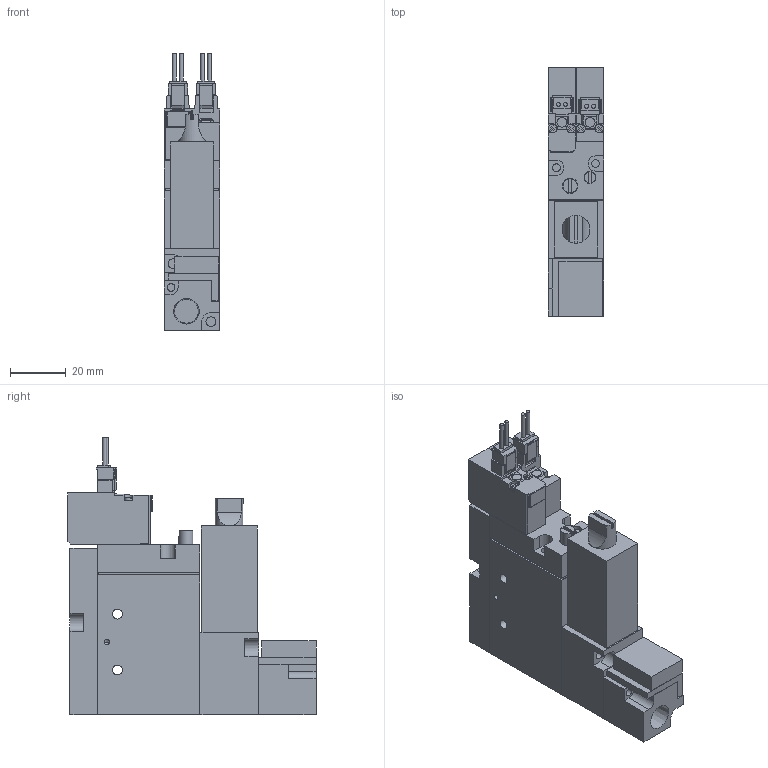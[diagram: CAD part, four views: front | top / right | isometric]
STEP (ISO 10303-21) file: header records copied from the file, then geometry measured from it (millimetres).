
FILE_DESCRIPTION(('STEP AP203'),'1');
FILE_NAME('BMPV32S2NZ25AL.stp','2025-06-17T01:57:33',(' '),(' '),'Spatial InterOp 3D',' ',' ');
FILE_SCHEMA(('CONFIG_CONTROL_DESIGN'));
Length unit declared in the file: millimetre
Products named in the file (14): BMPV32S2NZ25AL; S____; ___ ___2; ___-2(Rc); __ ___ (Rc); Filter Assy; __; _____; ___; upper plate-A; ______; ____; VACUUM VALVE FUNCTION MPV42-A; UV280-4E
Assembly tree (13 placements, depth 2):
  BMPV32S2NZ25AL
    S____
    ___ ___2
    ___-2(Rc)
    __ ___ (Rc)
    Filter Assy
    __
    _____
    ___
    upper plate-A
    ______
    ____
    VACUUM VALVE FUNCTION MPV42-A
    UV280-4E
Bounding box: 20 x 88.7 x 99.25 mm (x, y, z)
Volume: 96845.5 mm3; surface area: 34257.2 mm2
Topology: 13 solids, 13 shells, 368 faces, 966 edges, 640 vertices
Faces by surface type: plane 301, cylinder 59, cone 8
Full cylindrical faces by diameter (mm): 1.4 x4, 1.8 x2, 2 x2, 2.5 x2, 2.8 x4, 3 x4, 3.5 x10, 4 x1, 4.2 x1, 5 x1, 5.5 x1, 6.5 x1, 8.522 x1
Entity records: 11733 total; most frequent: CARTESIAN_POINT 1996, DIRECTION 1823, ORIENTED_EDGE 1818, EDGE_CURVE 909, LINE 751, VECTOR 751, VERTEX_POINT 631, AXIS2_PLACEMENT_3D 536
